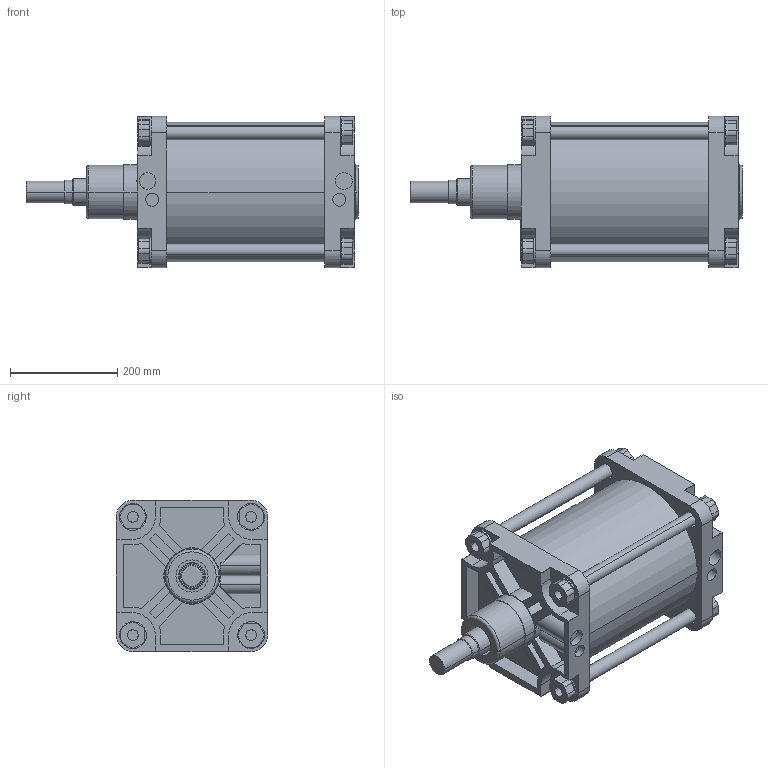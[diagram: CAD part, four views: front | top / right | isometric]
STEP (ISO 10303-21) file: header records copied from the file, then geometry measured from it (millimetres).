
FILE_DESCRIPTION(('CATIA V5 STEP Exchange'),'2;1');
FILE_NAME('D:\stp file for catalog\PNC\250\PNC 250-50-200.stp','2015-10-25T14:01:26+00:00',('none'),('none'),'Version 5-6 Release 2012','CATIA V5 STEP AP203','none');
FILE_SCHEMA(('CONFIG_CONTROL_DESIGN'));
Length unit declared in the file: millimetre
Products named in the file (1): PNC 250-50-200-00
Assembly tree (2 placements, depth 2):
  PNC 250-50-200-00
    #58
    #15305
Bounding box: 618 x 282 x 282 mm (x, y, z)
Volume: 10920322.5 mm3; surface area: 1422111.1 mm2
Topology: 2 solids, 2 shells, 556 faces, 1428 edges, 944 vertices
Faces by surface type: plane 316, cylinder 196, cone 42, torus 2
Entity records: 15751 total; most frequent: CARTESIAN_POINT 3340, ORIENTED_EDGE 2856, DIRECTION 1929, EDGE_CURVE 1428, VERTEX_POINT 944, VECTOR 904, LINE 904, AXIS2_PLACEMENT_3D 718
